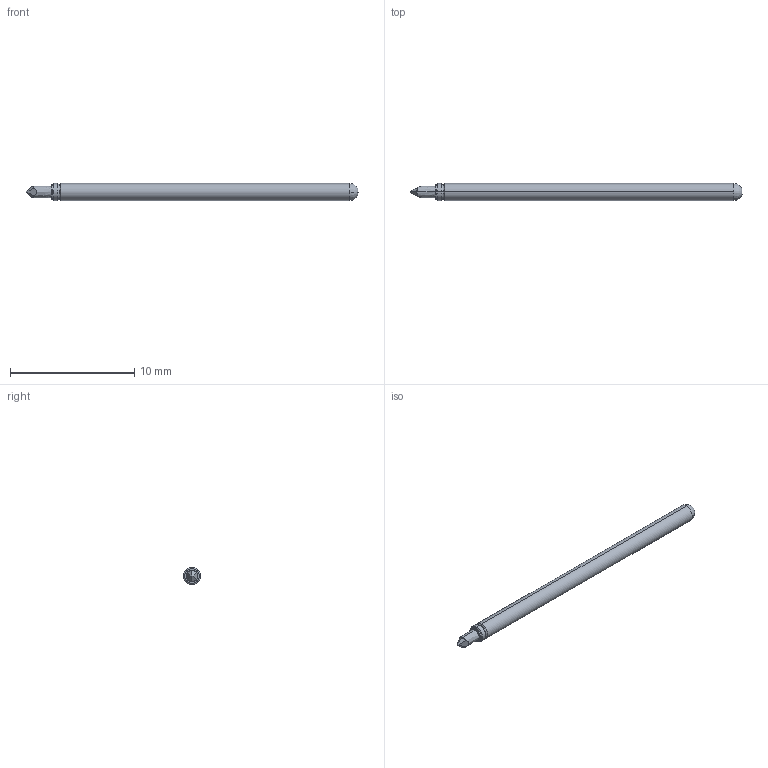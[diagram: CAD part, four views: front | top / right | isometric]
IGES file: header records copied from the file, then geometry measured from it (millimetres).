
Start section: SolidWorks IGES file using analytic representation for surfaces
Global section: file name: Z:\probe solid model mockups\Solidworks models\POGO-25 IGS files\POGO-25I8 Full.IGS; native system: SolidWorks 2006 by SolidWorks Corporation; preprocessor: SolidWorks 2006 by SolidWorks Corporation; author: tsakatani; date: 071214.092525; units: inch
Bounding box: 26.67 x 1.37 x 1.37 mm (x, y, z)
Surface area: 112.3 mm2 (no closed solid volume)
Topology: 0 solids, 0 shells, 24 faces, 170 edges, 170 vertices
Faces by surface type: bspline 12, revolution 12
